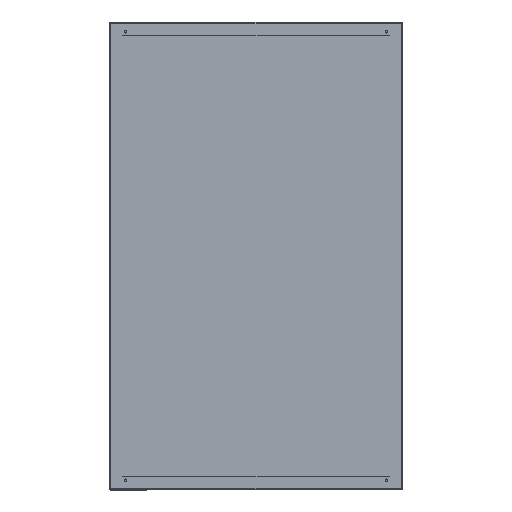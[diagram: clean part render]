
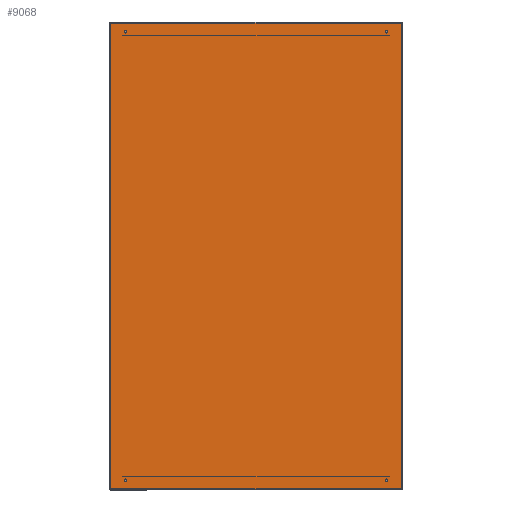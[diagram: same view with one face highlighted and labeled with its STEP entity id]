
A CAD part, front view. The second image highlights one B-rep face of the part: STEP entity #9068.
In plain terms, the highlighted planar face has unit normal (0, -1, 0).
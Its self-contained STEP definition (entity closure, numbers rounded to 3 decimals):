
#36 = EDGE_CURVE ( 'NONE', #9310, #6981, #10327, .T. ) ;
#192 = EDGE_LOOP ( 'NONE', ( #1397, #8660 ) ) ;
#303 = CARTESIAN_POINT ( 'NONE',  ( -372.8, 0., -599. ) ) ;
#680 = LINE ( 'NONE', #11624, #2648 ) ;
#737 = VERTEX_POINT ( 'NONE', #1712 ) ;
#748 = DIRECTION ( 'NONE',  ( 0., 1., 0. ) ) ;
#823 = FACE_BOUND ( 'NONE', #4177, .T. ) ;
#902 = CARTESIAN_POINT ( 'NONE',  ( 331.75, 0., 575. ) ) ;
#906 = CIRCLE ( 'NONE', #1255, 3.25 ) ;
#1117 = FACE_OUTER_BOUND ( 'NONE', #11356, .T. ) ;
#1131 = CARTESIAN_POINT ( 'NONE',  ( -372.8, 0., -596.8 ) ) ;
#1176 = AXIS2_PLACEMENT_3D ( 'NONE', #6867, #1473, #7797 ) ;
#1255 = AXIS2_PLACEMENT_3D ( 'NONE', #3176, #4155, #3208 ) ;
#1321 = ORIENTED_EDGE ( 'NONE', *, *, #36, .T. ) ;
#1386 = ORIENTED_EDGE ( 'NONE', *, *, #4801, .T. ) ;
#1397 = ORIENTED_EDGE ( 'NONE', *, *, #5684, .T. ) ;
#1429 = ORIENTED_EDGE ( 'NONE', *, *, #10749, .T. ) ;
#1473 = DIRECTION ( 'NONE',  ( 0., 1., 0. ) ) ;
#1712 = CARTESIAN_POINT ( 'NONE',  ( 338.25, 0., -575. ) ) ;
#1748 = CARTESIAN_POINT ( 'NONE',  ( -331.75, 0., -575. ) ) ;
#1906 = CARTESIAN_POINT ( 'NONE',  ( 331.75, 0., -575. ) ) ;
#1927 = CIRCLE ( 'NONE', #5857, 3.25 ) ;
#2111 = VERTEX_POINT ( 'NONE', #2645 ) ;
#2383 = LINE ( 'NONE', #1131, #4205 ) ;
#2505 = FACE_BOUND ( 'NONE', #192, .T. ) ;
#2599 = DIRECTION ( 'NONE',  ( -1., 0., 0. ) ) ;
#2603 = EDGE_CURVE ( 'NONE', #3630, #6815, #10663, .T. ) ;
#2645 = CARTESIAN_POINT ( 'NONE',  ( -372.8, 0., -596.8 ) ) ;
#2648 = VECTOR ( 'NONE', #8032, 1000. ) ;
#3025 = DIRECTION ( 'NONE',  ( 0., -1., 0. ) ) ;
#3135 = VECTOR ( 'NONE', #6048, 1000. ) ;
#3176 = CARTESIAN_POINT ( 'NONE',  ( -335., 0., 575. ) ) ;
#3208 = DIRECTION ( 'NONE',  ( 1., 0., 0. ) ) ;
#3337 = EDGE_CURVE ( 'NONE', #4803, #10735, #906, .T. ) ;
#3477 = ORIENTED_EDGE ( 'NONE', *, *, #7433, .T. ) ;
#3552 = LINE ( 'NONE', #6924, #3135 ) ;
#3623 = AXIS2_PLACEMENT_3D ( 'NONE', #303, #3025, #4765 ) ;
#3630 = VERTEX_POINT ( 'NONE', #4424 ) ;
#3705 = DIRECTION ( 'NONE',  ( 0., 0., 1. ) ) ;
#3728 = DIRECTION ( 'NONE',  ( 0., 1., 0. ) ) ;
#3757 = CIRCLE ( 'NONE', #1176, 3.25 ) ;
#3936 = VERTEX_POINT ( 'NONE', #8884 ) ;
#4155 = DIRECTION ( 'NONE',  ( 0., 1., 0. ) ) ;
#4177 = EDGE_LOOP ( 'NONE', ( #1429, #9629 ) ) ;
#4205 = VECTOR ( 'NONE', #3705, 1000. ) ;
#4379 = CARTESIAN_POINT ( 'NONE',  ( -372.8, 0., 596.8 ) ) ;
#4424 = CARTESIAN_POINT ( 'NONE',  ( 372.8, 0., 596.8 ) ) ;
#4436 = CARTESIAN_POINT ( 'NONE',  ( 372.8, 0., 596.8 ) ) ;
#4471 = DIRECTION ( 'NONE',  ( 0., 1., 0. ) ) ;
#4553 = CARTESIAN_POINT ( 'NONE',  ( 335., 0., 575. ) ) ;
#4597 = CARTESIAN_POINT ( 'NONE',  ( 335., 0., 575. ) ) ;
#4637 = DIRECTION ( 'NONE',  ( -1., 0., 0. ) ) ;
#4765 = DIRECTION ( 'NONE',  ( -1., 0., 0. ) ) ;
#4801 = EDGE_CURVE ( 'NONE', #2111, #10999, #680, .T. ) ;
#4803 = VERTEX_POINT ( 'NONE', #8654 ) ;
#4931 = AXIS2_PLACEMENT_3D ( 'NONE', #5783, #11166, #5900 ) ;
#5094 = EDGE_CURVE ( 'NONE', #737, #9484, #1927, .T. ) ;
#5106 = CIRCLE ( 'NONE', #11712, 3.25 ) ;
#5353 = CARTESIAN_POINT ( 'NONE',  ( 372.8, 0., -596.8 ) ) ;
#5549 = EDGE_LOOP ( 'NONE', ( #3477, #6172 ) ) ;
#5684 = EDGE_CURVE ( 'NONE', #8199, #3936, #11084, .T. ) ;
#5721 = AXIS2_PLACEMENT_3D ( 'NONE', #8244, #3728, #9149 ) ;
#5783 = CARTESIAN_POINT ( 'NONE',  ( -335., 0., 575. ) ) ;
#5857 = AXIS2_PLACEMENT_3D ( 'NONE', #11560, #748, #6051 ) ;
#5888 = ORIENTED_EDGE ( 'NONE', *, *, #6364, .T. ) ;
#5900 = DIRECTION ( 'NONE',  ( 1., 0., 0. ) ) ;
#6048 = DIRECTION ( 'NONE',  ( 0., 0., 1. ) ) ;
#6051 = DIRECTION ( 'NONE',  ( -1., 0., 0. ) ) ;
#6172 = ORIENTED_EDGE ( 'NONE', *, *, #3337, .T. ) ;
#6205 = DIRECTION ( 'NONE',  ( 1., 0., 0. ) ) ;
#6228 = CIRCLE ( 'NONE', #8447, 3.25 ) ;
#6317 = FACE_BOUND ( 'NONE', #5549, .T. ) ;
#6364 = EDGE_CURVE ( 'NONE', #10999, #3630, #3552, .T. ) ;
#6528 = CIRCLE ( 'NONE', #4931, 3.25 ) ;
#6815 = VERTEX_POINT ( 'NONE', #4379 ) ;
#6867 = CARTESIAN_POINT ( 'NONE',  ( 335., 0., -575. ) ) ;
#6924 = CARTESIAN_POINT ( 'NONE',  ( 372.8, 0., -596.8 ) ) ;
#6980 = VECTOR ( 'NONE', #2599, 1000. ) ;
#6981 = VERTEX_POINT ( 'NONE', #9633 ) ;
#7177 = CARTESIAN_POINT ( 'NONE',  ( -335., 0., -575. ) ) ;
#7371 = ORIENTED_EDGE ( 'NONE', *, *, #10102, .F. ) ;
#7433 = EDGE_CURVE ( 'NONE', #10735, #4803, #6528, .T. ) ;
#7604 = EDGE_CURVE ( 'NONE', #3936, #8199, #5106, .T. ) ;
#7675 = EDGE_CURVE ( 'NONE', #6981, #9310, #6228, .T. ) ;
#7797 = DIRECTION ( 'NONE',  ( -1., 0., 0. ) ) ;
#7946 = ORIENTED_EDGE ( 'NONE', *, *, #2603, .T. ) ;
#8032 = DIRECTION ( 'NONE',  ( 1., 0., 0. ) ) ;
#8199 = VERTEX_POINT ( 'NONE', #1748 ) ;
#8244 = CARTESIAN_POINT ( 'NONE',  ( -335., 0., -575. ) ) ;
#8447 = AXIS2_PLACEMENT_3D ( 'NONE', #4597, #10047, #4637 ) ;
#8654 = CARTESIAN_POINT ( 'NONE',  ( -338.25, 0., 575. ) ) ;
#8660 = ORIENTED_EDGE ( 'NONE', *, *, #7604, .T. ) ;
#8884 = CARTESIAN_POINT ( 'NONE',  ( -338.25, 0., -575. ) ) ;
#9038 = EDGE_LOOP ( 'NONE', ( #1321, #10322 ) ) ;
#9068 = ADVANCED_FACE ( 'NONE', ( #1117, #2505, #6317, #9436, #823 ), #9459, .T. ) ;
#9149 = DIRECTION ( 'NONE',  ( 1., 0., 0. ) ) ;
#9310 = VERTEX_POINT ( 'NONE', #902 ) ;
#9410 = CARTESIAN_POINT ( 'NONE',  ( -331.75, 0., 575. ) ) ;
#9436 = FACE_BOUND ( 'NONE', #9038, .T. ) ;
#9459 = PLANE ( 'NONE',  #3623 ) ;
#9484 = VERTEX_POINT ( 'NONE', #1906 ) ;
#9606 = AXIS2_PLACEMENT_3D ( 'NONE', #4553, #10876, #11723 ) ;
#9629 = ORIENTED_EDGE ( 'NONE', *, *, #5094, .T. ) ;
#9633 = CARTESIAN_POINT ( 'NONE',  ( 338.25, 0., 575. ) ) ;
#10047 = DIRECTION ( 'NONE',  ( 0., 1., 0. ) ) ;
#10102 = EDGE_CURVE ( 'NONE', #2111, #6815, #2383, .T. ) ;
#10322 = ORIENTED_EDGE ( 'NONE', *, *, #7675, .T. ) ;
#10327 = CIRCLE ( 'NONE', #9606, 3.25 ) ;
#10663 = LINE ( 'NONE', #4436, #6980 ) ;
#10735 = VERTEX_POINT ( 'NONE', #9410 ) ;
#10749 = EDGE_CURVE ( 'NONE', #9484, #737, #3757, .T. ) ;
#10876 = DIRECTION ( 'NONE',  ( 0., 1., 0. ) ) ;
#10999 = VERTEX_POINT ( 'NONE', #5353 ) ;
#11084 = CIRCLE ( 'NONE', #5721, 3.25 ) ;
#11166 = DIRECTION ( 'NONE',  ( 0., 1., 0. ) ) ;
#11356 = EDGE_LOOP ( 'NONE', ( #1386, #5888, #7946, #7371 ) ) ;
#11560 = CARTESIAN_POINT ( 'NONE',  ( 335., 0., -575. ) ) ;
#11624 = CARTESIAN_POINT ( 'NONE',  ( -372.8, 0., -596.8 ) ) ;
#11712 = AXIS2_PLACEMENT_3D ( 'NONE', #7177, #4471, #6205 ) ;
#11723 = DIRECTION ( 'NONE',  ( -1., 0., 0. ) ) ;
